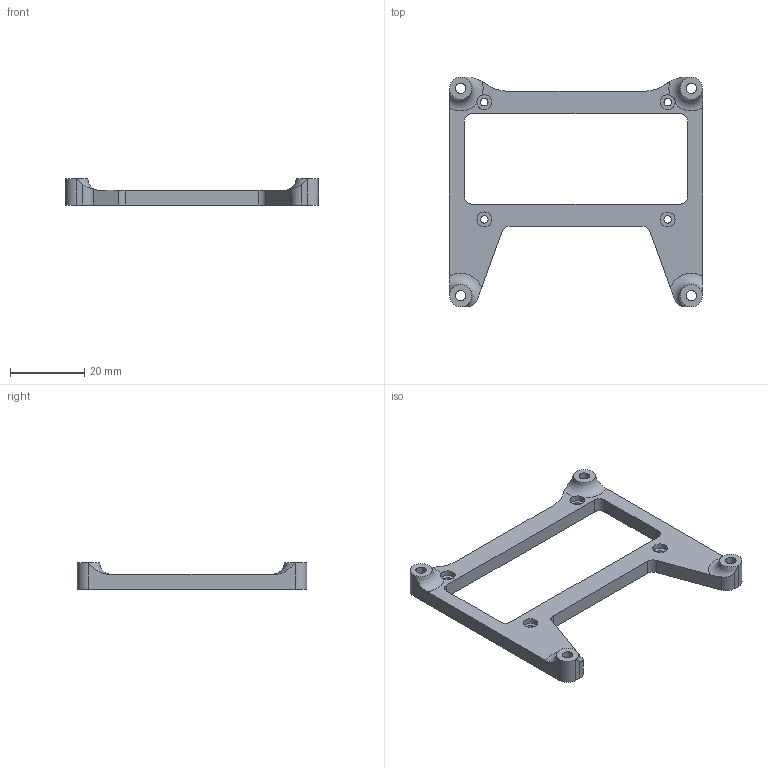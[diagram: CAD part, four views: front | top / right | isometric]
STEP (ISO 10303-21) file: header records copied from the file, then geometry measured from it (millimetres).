
FILE_DESCRIPTION(/* description */ (''),/* implementation_level */ '2;1');
FILE_NAME(/* name */ 'Adapter v2.0603.step',/* time_stamp */ '2024-02-12T04:44:42+03:00',/* author */ (''),/* organization */ (''),/* preprocessor_version */ 'ST-DEVELOPER v20',/* originating_system */ 'Autodesk Translation Framework v12.20.1.177',/* authorisation */ '');
FILE_SCHEMA (('AUTOMOTIVE_DESIGN { 1 0 10303 214 3 1 1 }'));
Length unit declared in the file: millimetre
Products named in the file (1): Adapter v2.0603
Bounding box: 68 x 61.7 x 7 mm (x, y, z)
Volume: 6332.5 mm3; surface area: 5386.2 mm2
Topology: 1 solids, 1 shells, 56 faces, 148 edges, 96 vertices
Faces by surface type: cylinder 28, plane 24, torus 4
Full cylindrical faces by diameter (mm): 2 x4, 2.8 x4, 4 x4
Entity records: 2052 total; most frequent: CARTESIAN_POINT 565, DIRECTION 310, ORIENTED_EDGE 296, EDGE_CURVE 148, AXIS2_PLACEMENT_3D 122, VERTEX_POINT 96, EDGE_LOOP 76, LINE 66
